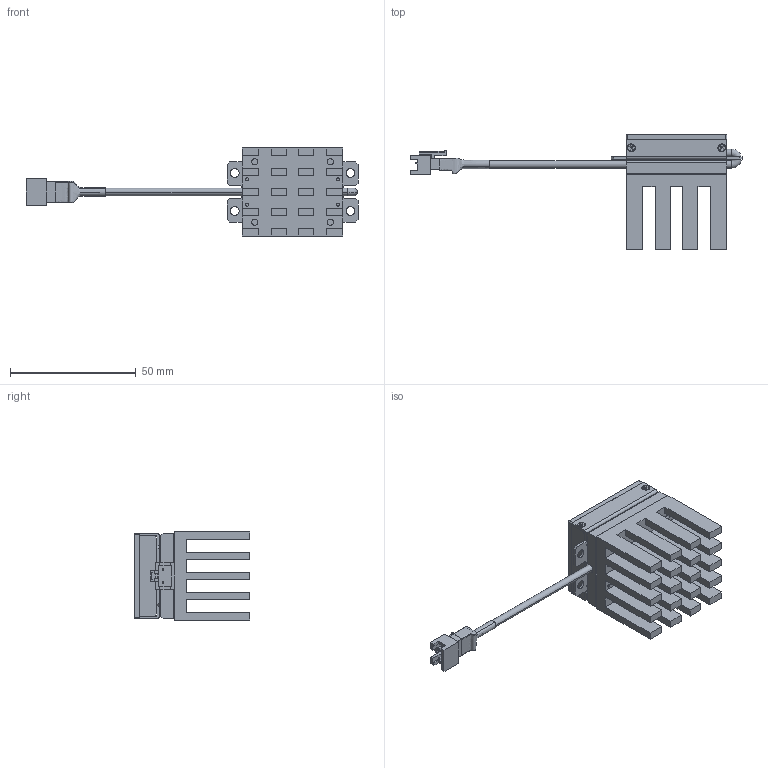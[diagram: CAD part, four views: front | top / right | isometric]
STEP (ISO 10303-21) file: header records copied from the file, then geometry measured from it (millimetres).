
FILE_DESCRIPTION (( 'STEP AP214' ), '1' );
FILE_NAME ('TMCB3001D101A_VLCX-3030.STEP', '2023-11-07T03:04:05', ( '' ), ( '' ), 'SwSTEP 2.0', 'SolidWorks 2018', '' );
FILE_SCHEMA (( 'AUTOMOTIVE_DESIGN' ));
Length unit declared in the file: millimetre
Products named in the file (1): TMCB3001D101A_VLCX-3030
Bounding box: 131.93 x 46 x 35 mm (x, y, z)
Surface area: 24247.1 mm2 (no closed solid volume)
Topology: 0 solids, 26 shells, 413 faces, 1264 edges, 886 vertices
Faces by surface type: plane 323, cylinder 68, cone 16, torus 4, bspline 2
Entity records: 19808 total; most frequent: CARTESIAN_POINT 3674, DIRECTION 2349, ORIENTED_EDGE 2286, EDGE_CURVE 1264, VECTOR 979, LINE 979, VERTEX_POINT 886, AXIS2_PLACEMENT_3D 685
